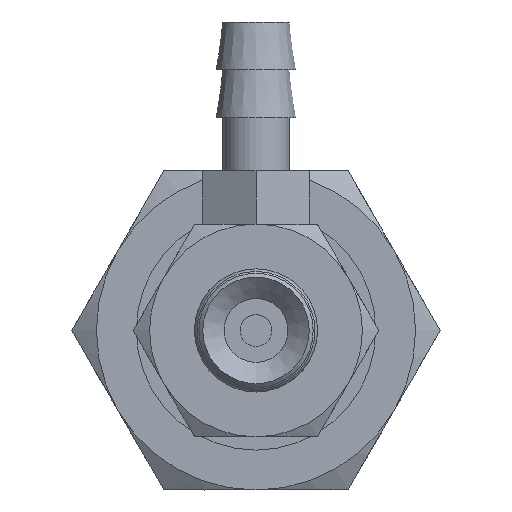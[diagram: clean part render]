
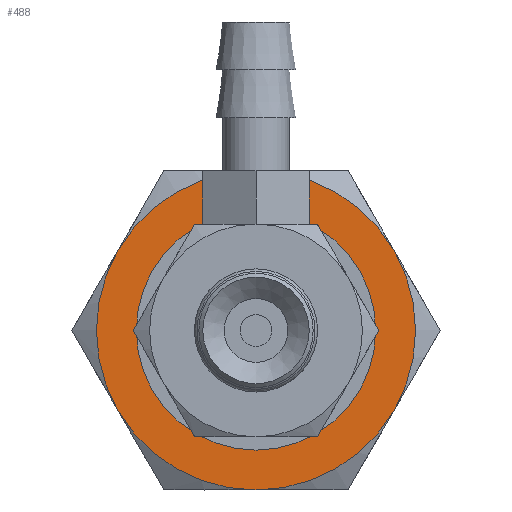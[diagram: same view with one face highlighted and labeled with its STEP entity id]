
A CAD part, front view. The second image highlights one B-rep face of the part: STEP entity #488.
In plain terms, the highlighted planar face has unit normal (0, -1, 0) as drawn and (-1, 0, 0) by its records, which use the part's own axes.
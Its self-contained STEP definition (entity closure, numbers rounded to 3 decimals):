
#488=ADVANCED_FACE('',(#666,#667),#668,.F.);
#666=FACE_BOUND('',#1002,.T.);
#667=FACE_OUTER_BOUND('',#1003,.T.);
#668=PLANE('',#1004);
#1002=EDGE_LOOP('',(#1488));
#1003=EDGE_LOOP('',(#1489,#1490,#1491,#1492,#1493,#1494));
#1004=AXIS2_PLACEMENT_3D('',#1495,#1496,#1497);
#1488=ORIENTED_EDGE('',*,*,#2203,.T.);
#1489=ORIENTED_EDGE('',*,*,#2184,.F.);
#1490=ORIENTED_EDGE('',*,*,#2221,.F.);
#1491=ORIENTED_EDGE('',*,*,#2217,.F.);
#1492=ORIENTED_EDGE('',*,*,#2192,.F.);
#1493=ORIENTED_EDGE('',*,*,#2191,.F.);
#1494=ORIENTED_EDGE('',*,*,#2186,.F.);
#1495=CARTESIAN_POINT('',(0.,0.0,0.0));
#1496=DIRECTION('',(1.0,0.0,0.0));
#1497=DIRECTION('',(0.0,1.0,0.0));
#2184=EDGE_CURVE('',#2447,#2450,#2451,.T.);
#2186=EDGE_CURVE('',#2450,#2453,#2454,.T.);
#2191=EDGE_CURVE('',#2453,#2458,#2462,.T.);
#2192=EDGE_CURVE('',#2458,#2463,#2464,.T.);
#2203=EDGE_CURVE('',#2482,#2482,#2483,.T.);
#2217=EDGE_CURVE('',#2463,#2496,#2503,.T.);
#2221=EDGE_CURVE('',#2496,#2447,#2508,.T.);
#2447=VERTEX_POINT('',#2913);
#2450=VERTEX_POINT('',#2936);
#2451=CIRCLE('',#2937,6.0);
#2453=VERTEX_POINT('',#2949);
#2454=CIRCLE('',#2950,6.0);
#2458=VERTEX_POINT('',#2974);
#2462=CIRCLE('',#2998,6.0);
#2463=VERTEX_POINT('',#2999);
#2464=CIRCLE('',#3000,6.0);
#2482=VERTEX_POINT('',#3058);
#2483=CIRCLE('',#3059,4.0);
#2496=VERTEX_POINT('',#3115);
#2503=CIRCLE('',#3172,6.0);
#2508=CIRCLE('',#3188,6.0);
#2913=CARTESIAN_POINT('',(0.,5.196,-3.0));
#2936=CARTESIAN_POINT('',(0.,5.196,3.0));
#2937=AXIS2_PLACEMENT_3D('',#3710,#3711,#3712);
#2949=CARTESIAN_POINT('',(0.,0.0,6.0));
#2950=AXIS2_PLACEMENT_3D('',#3713,#3714,#3715);
#2974=CARTESIAN_POINT('',(0.,-5.196,3.0));
#2998=AXIS2_PLACEMENT_3D('',#3716,#3717,#3718);
#2999=CARTESIAN_POINT('',(0.,-5.196,-3.0));
#3000=AXIS2_PLACEMENT_3D('',#3719,#3720,#3721);
#3058=CARTESIAN_POINT('',(0.,0.0,-4.0));
#3059=AXIS2_PLACEMENT_3D('',#3740,#3741,#3742);
#3115=CARTESIAN_POINT('',(0.,0.0,-6.0));
#3172=AXIS2_PLACEMENT_3D('',#3749,#3750,#3751);
#3188=AXIS2_PLACEMENT_3D('',#3756,#3757,#3758);
#3710=CARTESIAN_POINT('',(0.,0.0,0.0));
#3711=DIRECTION('',(1.0,0.0,0.0));
#3712=DIRECTION('',(0.0,0.0,-1.0));
#3713=CARTESIAN_POINT('',(0.,0.0,0.0));
#3714=DIRECTION('',(1.0,0.0,0.0));
#3715=DIRECTION('',(0.0,0.0,-1.0));
#3716=CARTESIAN_POINT('',(0.,0.0,0.0));
#3717=DIRECTION('',(1.0,0.0,0.0));
#3718=DIRECTION('',(0.0,0.0,-1.0));
#3719=CARTESIAN_POINT('',(0.,0.0,0.0));
#3720=DIRECTION('',(1.0,0.0,0.0));
#3721=DIRECTION('',(0.0,0.0,-1.0));
#3740=CARTESIAN_POINT('',(0.,0.0,0.0));
#3741=DIRECTION('',(1.0,0.0,0.0));
#3742=DIRECTION('',(0.0,0.0,-1.0));
#3749=CARTESIAN_POINT('',(0.,0.0,0.0));
#3750=DIRECTION('',(1.0,0.0,0.0));
#3751=DIRECTION('',(0.0,0.0,-1.0));
#3756=CARTESIAN_POINT('',(0.,0.0,0.0));
#3757=DIRECTION('',(1.0,0.0,0.0));
#3758=DIRECTION('',(0.0,0.0,-1.0));
